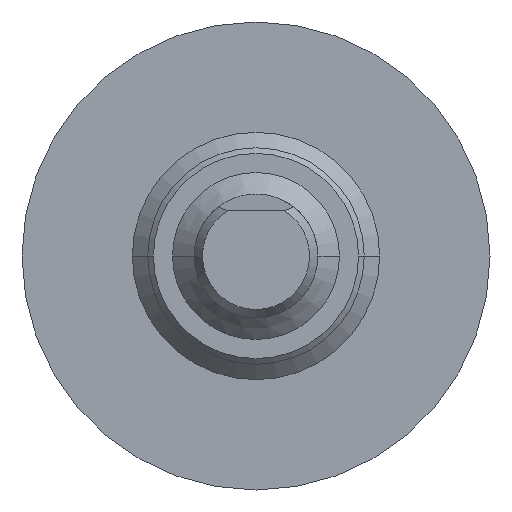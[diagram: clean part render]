
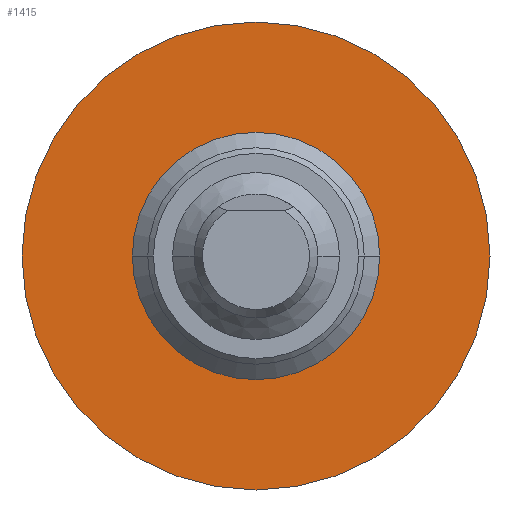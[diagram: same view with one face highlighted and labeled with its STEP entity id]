
A CAD part, front view. The second image highlights one B-rep face of the part: STEP entity #1415.
In plain terms, the highlighted planar face has unit normal (0, -1, 0).
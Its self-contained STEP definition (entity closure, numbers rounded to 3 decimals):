
#244=CARTESIAN_POINT('',(0.,0.,0.));
#245=DIRECTION('',(0.,-1.,0.));
#246=DIRECTION('',(1.,0.,0.));
#247=AXIS2_PLACEMENT_3D('',#244,#245,#246);
#249=CARTESIAN_POINT('',(0.,0.,0.));
#250=DIRECTION('',(0.,1.,0.));
#251=DIRECTION('',(1.,0.,0.));
#252=AXIS2_PLACEMENT_3D('',#249,#250,#251);
#262=CARTESIAN_POINT('',(0.,0.,0.));
#263=DIRECTION('',(0.,1.,0.));
#264=DIRECTION('',(1.,0.,0.));
#265=AXIS2_PLACEMENT_3D('',#262,#263,#264);
#267=CARTESIAN_POINT('',(0.,0.,0.));
#268=DIRECTION('',(0.,-1.,0.));
#269=DIRECTION('',(1.,0.,0.));
#270=AXIS2_PLACEMENT_3D('',#267,#268,#269);
#932=CARTESIAN_POINT('',(6.,0.,0.));
#933=VERTEX_POINT('',#932);
#934=CARTESIAN_POINT('',(11.35,0.,0.));
#936=VERTEX_POINT('',#934);
#970=CARTESIAN_POINT('',(-6.,0.,0.));
#971=VERTEX_POINT('',#970);
#972=CARTESIAN_POINT('',(-11.35,0.,0.));
#974=VERTEX_POINT('',#972);
#1400=CARTESIAN_POINT('',(0.,0.,0.));
#1401=DIRECTION('',(0.,-1.,0.));
#1402=DIRECTION('',(-1.,0.,0.));
#1403=AXIS2_PLACEMENT_3D('',#1400,#1401,#1402);
#1404=PLANE('',#1403);
#1406=ORIENTED_EDGE('',*,*,#1405,.T.);
#1408=ORIENTED_EDGE('',*,*,#1407,.F.);
#1409=EDGE_LOOP('',(#1406,#1408));
#1410=FACE_OUTER_BOUND('',#1409,.F.);
#1411=ORIENTED_EDGE('',*,*,#1395,.T.);
#1412=ORIENTED_EDGE('',*,*,#1379,.F.);
#1413=EDGE_LOOP('',(#1411,#1412));
#1414=FACE_BOUND('',#1413,.F.);
#248=CIRCLE('',#247,6.);
#253=CIRCLE('',#252,6.);
#266=CIRCLE('',#265,11.35);
#271=CIRCLE('',#270,11.35);
#1379=EDGE_CURVE('',#933,#971,#253,.T.);
#1395=EDGE_CURVE('',#933,#971,#248,.T.);
#1405=EDGE_CURVE('',#936,#974,#266,.T.);
#1407=EDGE_CURVE('',#936,#974,#271,.T.);
#1415=ADVANCED_FACE('',(#1410,#1414),#1404,.T.);
